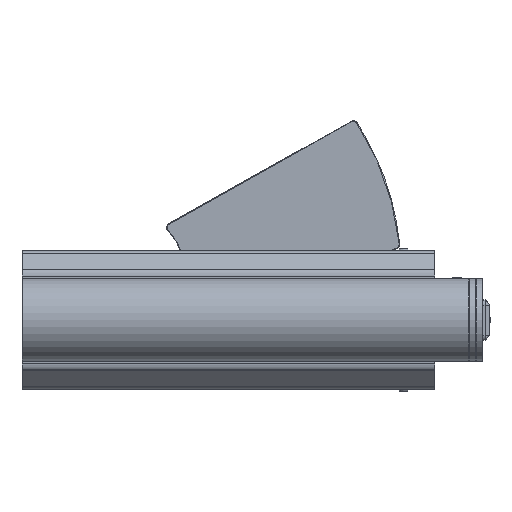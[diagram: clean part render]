
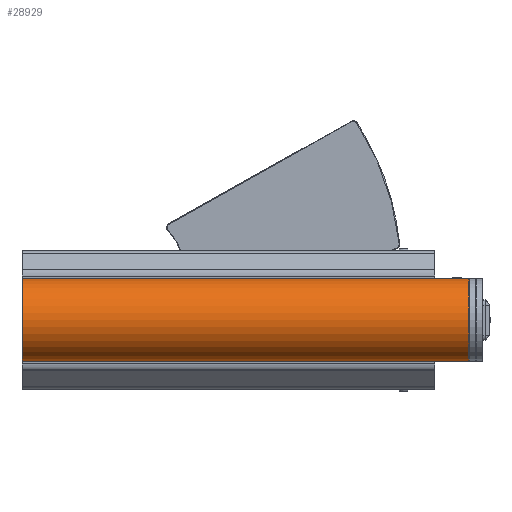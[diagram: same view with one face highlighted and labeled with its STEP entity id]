
A CAD part, left-side view. The second image highlights one B-rep face of the part: STEP entity #28929.
In plain terms, the highlighted cylindrical face has radius 90 mm (diameter 180 mm), a partial arc.
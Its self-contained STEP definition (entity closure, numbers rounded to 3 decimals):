
#27048=CARTESIAN_POINT('',(0.,-130.,0.));
#27049=DIRECTION('',(0.,0.,1.));
#27050=DIRECTION('',(-1.,0.,0.));
#27051=AXIS2_PLACEMENT_3D('',#27048,#27049,#27050);
#27053=CARTESIAN_POINT('',(0.,-130.,0.));
#27054=DIRECTION('',(0.,0.,1.));
#27055=DIRECTION('',(0.,-1.,0.));
#27056=AXIS2_PLACEMENT_3D('',#27053,#27054,#27055);
#27072=DIRECTION('',(0.,0.,1.));
#27073=VECTOR('',#27072,968.5);
#27074=CARTESIAN_POINT('',(-90.,-130.,0.));
#27075=LINE('',#27074,#27073);
#27076=DIRECTION('',(0.,0.,-1.));
#27077=VECTOR('',#27076,968.5);
#27078=CARTESIAN_POINT('',(90.,-130.,968.5));
#27079=LINE('',#27078,#27077);
#27080=CARTESIAN_POINT('',(0.,-130.,968.5));
#27081=DIRECTION('',(0.,0.,-1.));
#27082=DIRECTION('',(1.,0.,0.));
#27083=AXIS2_PLACEMENT_3D('',#27080,#27081,#27082);
#27085=CARTESIAN_POINT('',(0.,-130.,968.5));
#27086=DIRECTION('',(0.,0.,-1.));
#27087=DIRECTION('',(0.,-1.,0.));
#27088=AXIS2_PLACEMENT_3D('',#27085,#27086,#27087);
#27726=CARTESIAN_POINT('',(-90.,-130.,0.));
#27728=VERTEX_POINT('',#27726);
#27732=CARTESIAN_POINT('',(-90.,-130.,968.5));
#27733=VERTEX_POINT('',#27732);
#27844=CARTESIAN_POINT('',(90.,-130.,968.5));
#27845=VERTEX_POINT('',#27844);
#27848=CARTESIAN_POINT('',(90.,-130.,0.));
#27849=VERTEX_POINT('',#27848);
#27858=CARTESIAN_POINT('',(0.,-220.,0.));
#27859=VERTEX_POINT('',#27858);
#27860=CARTESIAN_POINT('',(0.,-220.,968.5));
#27861=VERTEX_POINT('',#27860);
#28913=CARTESIAN_POINT('',(0.,-130.,0.));
#28914=DIRECTION('',(0.,0.,1.));
#28915=DIRECTION('',(0.,1.,0.));
#28916=AXIS2_PLACEMENT_3D('',#28913,#28914,#28915);
#28917=CYLINDRICAL_SURFACE('',#28916,90.);
#28918=ORIENTED_EDGE('',*,*,#28903,.F.);
#28919=ORIENTED_EDGE('',*,*,#28901,.F.);
#28920=ORIENTED_EDGE('',*,*,#28081,.T.);
#28922=ORIENTED_EDGE('',*,*,#28921,.F.);
#28924=ORIENTED_EDGE('',*,*,#28923,.F.);
#28926=ORIENTED_EDGE('',*,*,#28925,.T.);
#28927=EDGE_LOOP('',(#28918,#28919,#28920,#28922,#28924,#28926));
#28928=FACE_OUTER_BOUND('',#28927,.F.);
#27052=CIRCLE('',#27051,90.);
#27057=CIRCLE('',#27056,90.);
#27084=CIRCLE('',#27083,90.);
#27089=CIRCLE('',#27088,90.);
#28081=EDGE_CURVE('',#27728,#27733,#27075,.T.);
#28901=EDGE_CURVE('',#27728,#27859,#27052,.T.);
#28903=EDGE_CURVE('',#27859,#27849,#27057,.T.);
#28921=EDGE_CURVE('',#27861,#27733,#27089,.T.);
#28923=EDGE_CURVE('',#27845,#27861,#27084,.T.);
#28925=EDGE_CURVE('',#27845,#27849,#27079,.T.);
#28929=ADVANCED_FACE('',(#28928),#28917,.T.);
